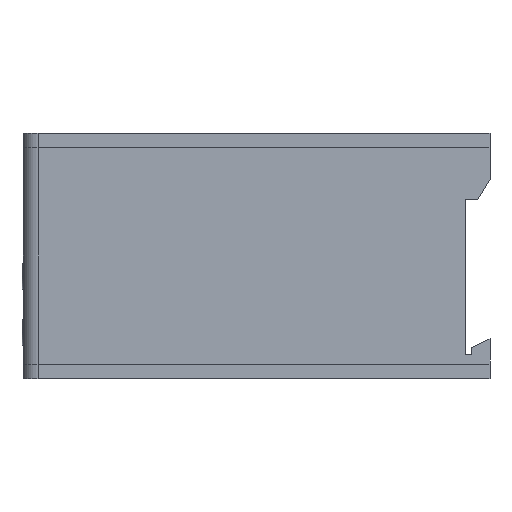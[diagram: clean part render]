
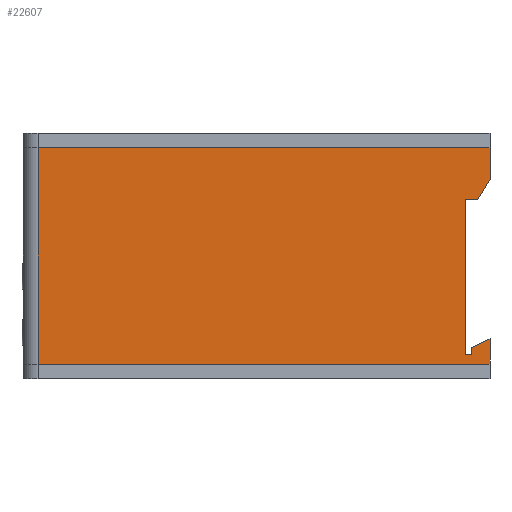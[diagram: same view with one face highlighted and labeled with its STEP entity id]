
A CAD part, left-side view. The second image highlights one B-rep face of the part: STEP entity #22607.
In plain terms, the highlighted planar face has unit normal (-1, 0, 0).
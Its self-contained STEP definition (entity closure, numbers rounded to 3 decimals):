
#2749 = LINE ( 'NONE', #153307, #30123 ) ;
#3768 = VECTOR ( 'NONE', #25977, 1000. ) ;
#4781 = CARTESIAN_POINT ( 'NONE',  ( -42.02, -38.418, 16.794 ) ) ;
#4938 = EDGE_CURVE ( 'NONE', #23456, #18526, #80919, .T. ) ;
#6612 = CARTESIAN_POINT ( 'NONE',  ( -42.02, 53.582, -27.206 ) ) ;
#10015 = CARTESIAN_POINT ( 'NONE',  ( -42.02, -38.418, 16.794 ) ) ;
#14943 = ORIENTED_EDGE ( 'NONE', *, *, #166795, .T. ) ;
#15488 = VERTEX_POINT ( 'NONE', #175150 ) ;
#16787 = CARTESIAN_POINT ( 'NONE',  ( -42.02, 53.582, 16.794 ) ) ;
#17507 = CARTESIAN_POINT ( 'NONE',  ( -42.02, -35.918, 6.294 ) ) ;
#18526 = VERTEX_POINT ( 'NONE', #17507 ) ;
#18650 = CARTESIAN_POINT ( 'NONE',  ( -42.02, -38.418, 16.794 ) ) ;
#19482 = LINE ( 'NONE', #158390, #171620 ) ;
#22607 = ADVANCED_FACE ( 'NONE', ( #71168 ), #175151, .F. ) ;
#23276 = DIRECTION ( 'NONE',  ( 0., 0., -1. ) ) ;
#23456 = VERTEX_POINT ( 'NONE', #29426 ) ;
#23689 = ORIENTED_EDGE ( 'NONE', *, *, #47232, .F. ) ;
#23846 = AXIS2_PLACEMENT_3D ( 'NONE', #4781, #44606, #53821 ) ;
#24526 = VECTOR ( 'NONE', #97428, 1000. ) ;
#24604 = CARTESIAN_POINT ( 'NONE',  ( -42.02, -33.418, 16.794 ) ) ;
#25977 = DIRECTION ( 'NONE',  ( 0., 0., 1. ) ) ;
#26367 = VECTOR ( 'NONE', #58827, 1000. ) ;
#29426 = CARTESIAN_POINT ( 'NONE',  ( -42.02, -38.418, 10.444 ) ) ;
#30123 = VECTOR ( 'NONE', #31946, 1000. ) ;
#31946 = DIRECTION ( 'NONE',  ( 0., 0., -1. ) ) ;
#32429 = VECTOR ( 'NONE', #93127, 1000. ) ;
#33939 = ORIENTED_EDGE ( 'NONE', *, *, #4938, .F. ) ;
#34461 = LINE ( 'NONE', #130137, #78592 ) ;
#37179 = EDGE_LOOP ( 'NONE', ( #135625, #23689, #165623, #142626, #139957, #117498, #140654, #33939, #85843, #161991, #14943 ) ) ;
#38396 = CARTESIAN_POINT ( 'NONE',  ( -42.02, -34.699, -23.866 ) ) ;
#39167 = LINE ( 'NONE', #10015, #133533 ) ;
#39745 = CARTESIAN_POINT ( 'NONE',  ( -42.02, -33.418, 6.294 ) ) ;
#44503 = DIRECTION ( 'NONE',  ( 0., 0.516, -0.857 ) ) ;
#44606 = DIRECTION ( 'NONE',  ( 1., 0., 0. ) ) ;
#46456 = CARTESIAN_POINT ( 'NONE',  ( -42.02, -34.699, -25.365 ) ) ;
#47232 = EDGE_CURVE ( 'NONE', #15488, #70387, #124018, .T. ) ;
#49978 = LINE ( 'NONE', #38396, #3768 ) ;
#50631 = LINE ( 'NONE', #63865, #32429 ) ;
#53821 = DIRECTION ( 'NONE',  ( 0., 1., 0. ) ) ;
#58827 = DIRECTION ( 'NONE',  ( 0., -1., 0. ) ) ;
#62426 = EDGE_CURVE ( 'NONE', #18526, #132990, #50631, .T. ) ;
#63865 = CARTESIAN_POINT ( 'NONE',  ( -42.02, -35.918, 6.294 ) ) ;
#65282 = LINE ( 'NONE', #24604, #102955 ) ;
#68746 = VERTEX_POINT ( 'NONE', #86478 ) ;
#70387 = VERTEX_POINT ( 'NONE', #164369 ) ;
#71168 = FACE_OUTER_BOUND ( 'NONE', #37179, .T. ) ;
#72539 = CARTESIAN_POINT ( 'NONE',  ( -42.02, -38.418, -27.206 ) ) ;
#75618 = DIRECTION ( 'NONE',  ( 0., -1., 0. ) ) ;
#78592 = VECTOR ( 'NONE', #115101, 1000. ) ;
#80919 = LINE ( 'NONE', #96856, #151274 ) ;
#85138 = VERTEX_POINT ( 'NONE', #18650 ) ;
#85843 = ORIENTED_EDGE ( 'NONE', *, *, #104917, .F. ) ;
#86478 = CARTESIAN_POINT ( 'NONE',  ( -42.02, -33.418, -25.365 ) ) ;
#89080 = CARTESIAN_POINT ( 'NONE',  ( -42.02, -34.699, -23.866 ) ) ;
#90699 = LINE ( 'NONE', #143839, #111843 ) ;
#93127 = DIRECTION ( 'NONE',  ( 0., 1., 0. ) ) ;
#96856 = CARTESIAN_POINT ( 'NONE',  ( -42.02, -38.418, 10.444 ) ) ;
#97219 = EDGE_CURVE ( 'NONE', #68746, #125173, #123615, .T. ) ;
#97428 = DIRECTION ( 'NONE',  ( 0., 0., -1. ) ) ;
#102955 = VECTOR ( 'NONE', #117702, 1000. ) ;
#104917 = EDGE_CURVE ( 'NONE', #85138, #23456, #39167, .T. ) ;
#111843 = VECTOR ( 'NONE', #75618, 1000. ) ;
#113815 = VERTEX_POINT ( 'NONE', #89080 ) ;
#115101 = DIRECTION ( 'NONE',  ( 0., -1., 0. ) ) ;
#117498 = ORIENTED_EDGE ( 'NONE', *, *, #123185, .T. ) ;
#117702 = DIRECTION ( 'NONE',  ( 0., 0., 1. ) ) ;
#122944 = EDGE_CURVE ( 'NONE', #125173, #113815, #49978, .T. ) ;
#123185 = EDGE_CURVE ( 'NONE', #68746, #132990, #65282, .T. ) ;
#123615 = LINE ( 'NONE', #46456, #26367 ) ;
#124018 = LINE ( 'NONE', #72539, #24526 ) ;
#124467 = VERTEX_POINT ( 'NONE', #16787 ) ;
#125173 = VERTEX_POINT ( 'NONE', #156688 ) ;
#130137 = CARTESIAN_POINT ( 'NONE',  ( -42.02, -38.418, -27.206 ) ) ;
#132639 = DIRECTION ( 'NONE',  ( 0., -0.9, 0.436 ) ) ;
#132990 = VERTEX_POINT ( 'NONE', #39745 ) ;
#133533 = VECTOR ( 'NONE', #23276, 1000. ) ;
#135625 = ORIENTED_EDGE ( 'NONE', *, *, #141566, .T. ) ;
#139957 = ORIENTED_EDGE ( 'NONE', *, *, #97219, .F. ) ;
#140654 = ORIENTED_EDGE ( 'NONE', *, *, #62426, .F. ) ;
#141566 = EDGE_CURVE ( 'NONE', #150302, #70387, #34461, .T. ) ;
#142626 = ORIENTED_EDGE ( 'NONE', *, *, #122944, .F. ) ;
#143839 = CARTESIAN_POINT ( 'NONE',  ( -42.02, -38.418, 16.794 ) ) ;
#150302 = VERTEX_POINT ( 'NONE', #6612 ) ;
#151274 = VECTOR ( 'NONE', #44503, 1000. ) ;
#152328 = EDGE_CURVE ( 'NONE', #124467, #85138, #90699, .T. ) ;
#153307 = CARTESIAN_POINT ( 'NONE',  ( -42.02, 53.582, 16.794 ) ) ;
#156688 = CARTESIAN_POINT ( 'NONE',  ( -42.02, -34.699, -25.365 ) ) ;
#158390 = CARTESIAN_POINT ( 'NONE',  ( -42.02, -38.418, -22.066 ) ) ;
#161991 = ORIENTED_EDGE ( 'NONE', *, *, #152328, .F. ) ;
#164369 = CARTESIAN_POINT ( 'NONE',  ( -42.02, -38.418, -27.206 ) ) ;
#165623 = ORIENTED_EDGE ( 'NONE', *, *, #166953, .F. ) ;
#166795 = EDGE_CURVE ( 'NONE', #124467, #150302, #2749, .T. ) ;
#166953 = EDGE_CURVE ( 'NONE', #113815, #15488, #19482, .T. ) ;
#171620 = VECTOR ( 'NONE', #132639, 1000. ) ;
#175150 = CARTESIAN_POINT ( 'NONE',  ( -42.02, -38.418, -22.066 ) ) ;
#175151 = PLANE ( 'NONE',  #23846 ) ;
